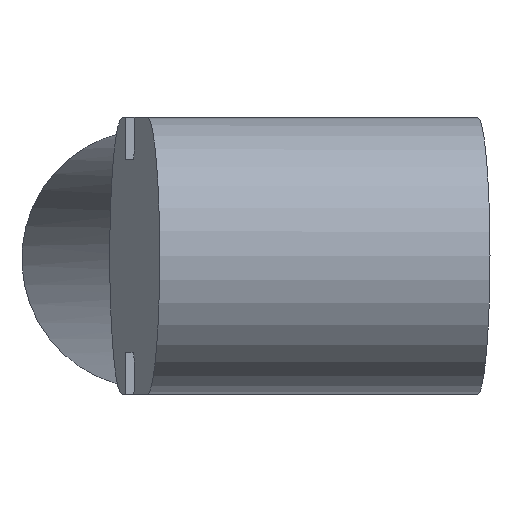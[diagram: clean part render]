
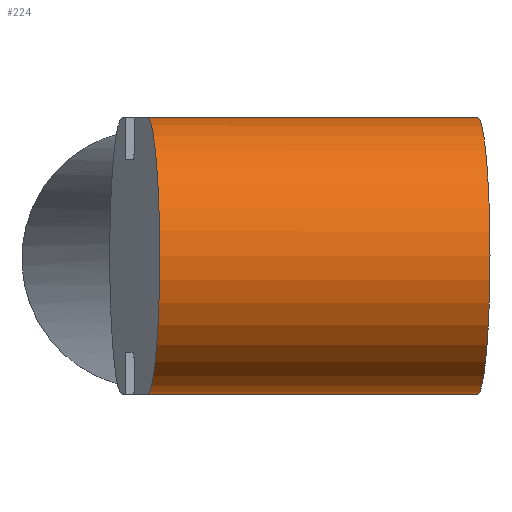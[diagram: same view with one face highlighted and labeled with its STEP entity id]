
A CAD part, top view. The second image highlights one B-rep face of the part: STEP entity #224.
In plain terms, the highlighted free-form (B-spline) face has degree [5, 3] with [6, 8] control points.
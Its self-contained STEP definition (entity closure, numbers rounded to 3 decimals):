
#128=FACE_OUTER_BOUND('',#251,.T.);
#133=(
BOUNDED_SURFACE()
B_SPLINE_SURFACE(5,3,((#843,#844,#845,#846,#847,#848,#849,#850),(#851,#852,
#853,#854,#855,#856,#857,#858),(#859,#860,#861,#862,#863,#864,#865,#866),
(#867,#868,#869,#870,#871,#872,#873,#874),(#875,#876,#877,#878,#879,#880,
#881,#882),(#883,#884,#885,#886,#887,#888,#889,#890)),.UNSPECIFIED.,.F.,
 .F.,.F.)
B_SPLINE_SURFACE_WITH_KNOTS((6,6),(4,2,2,4),(0.,1.),(0.,0.083,
0.917,1.),.UNSPECIFIED.)
GEOMETRIC_REPRESENTATION_ITEM()
RATIONAL_B_SPLINE_SURFACE(((1.,1.,1.,1.,1.,1.,1.,1.),(0.6,0.6,0.6,0.6,0.6,
0.6,0.6,0.6),(0.4,0.4,0.4,0.4,0.4,0.4,0.4,0.4),(0.4,0.4,0.4,0.4,0.4,0.4,
0.4,0.4),(0.6,0.6,0.6,0.6,0.6,0.6,0.6,0.6),(1.,1.,1.,1.,1.,1.,1.,1.)))
REPRESENTATION_ITEM('')
SURFACE()
);
#137=CIRCLE('',#424,190.253);
#141=CIRCLE('',#429,190.253);
#174=LINE('',#841,#208);
#175=LINE('',#842,#209);
#208=VECTOR('',#519,1.);
#209=VECTOR('',#520,1.);
#224=ADVANCED_FACE('',(#128),#133,.T.);
#251=EDGE_LOOP('',(#330,#331,#332,#333));
#330=ORIENTED_EDGE('',*,*,#415,.F.);
#331=ORIENTED_EDGE('',*,*,#402,.T.);
#332=ORIENTED_EDGE('',*,*,#416,.F.);
#333=ORIENTED_EDGE('',*,*,#382,.T.);
#352=VERTEX_POINT('',#775);
#353=VERTEX_POINT('',#777);
#370=VERTEX_POINT('',#814);
#371=VERTEX_POINT('',#816);
#382=EDGE_CURVE('',#353,#352,#137,.T.);
#402=EDGE_CURVE('',#371,#370,#141,.T.);
#415=EDGE_CURVE('',#371,#352,#174,.T.);
#416=EDGE_CURVE('',#353,#370,#175,.T.);
#424=AXIS2_PLACEMENT_3D('',#776,#457,#458);
#429=AXIS2_PLACEMENT_3D('',#815,#483,#484);
#457=DIRECTION('',(0.996,0.,-0.09));
#458=DIRECTION('',(0.,1.,-0.001));
#483=DIRECTION('',(-0.996,0.,0.09));
#484=DIRECTION('',(0.,-1.,0.001));
#519=DIRECTION('',(-0.996,0.,0.09));
#520=DIRECTION('',(0.996,0.,-0.09));
#775=CARTESIAN_POINT('',(11888.306,-192.053,-564.585));
#776=CARTESIAN_POINT('',(11888.311,-1.8,-564.558));
#777=CARTESIAN_POINT('',(11888.315,188.453,-564.532));
#814=CARTESIAN_POINT('',(12341.9,188.448,-605.658));
#815=CARTESIAN_POINT('',(12341.896,-1.804,-605.685));
#816=CARTESIAN_POINT('',(12341.891,-192.057,-605.712));
#841=CARTESIAN_POINT('',(12115.099,-192.055,-585.148));
#842=CARTESIAN_POINT('',(12115.107,188.45,-585.095));
#843=CARTESIAN_POINT('',(11842.956,188.453,-560.419));
#844=CARTESIAN_POINT('',(11858.076,188.453,-561.79));
#845=CARTESIAN_POINT('',(11873.195,188.453,-563.161));
#846=CARTESIAN_POINT('',(12039.51,188.451,-578.24));
#847=CARTESIAN_POINT('',(12190.705,188.45,-591.949));
#848=CARTESIAN_POINT('',(12357.019,188.448,-607.029));
#849=CARTESIAN_POINT('',(12372.139,188.448,-608.4));
#850=CARTESIAN_POINT('',(12387.258,188.448,-609.771));
#851=CARTESIAN_POINT('',(11854.41,188.435,-434.102));
#852=CARTESIAN_POINT('',(11869.529,188.435,-435.473));
#853=CARTESIAN_POINT('',(11884.649,188.435,-436.844));
#854=CARTESIAN_POINT('',(12050.963,188.433,-451.924));
#855=CARTESIAN_POINT('',(12202.158,188.432,-465.632));
#856=CARTESIAN_POINT('',(12368.473,188.43,-480.712));
#857=CARTESIAN_POINT('',(12383.592,188.43,-482.083));
#858=CARTESIAN_POINT('',(12398.712,188.43,-483.454));
#859=CARTESIAN_POINT('',(11868.724,93.286,-276.219));
#860=CARTESIAN_POINT('',(11883.843,93.286,-277.59));
#861=CARTESIAN_POINT('',(11898.963,93.286,-278.961));
#862=CARTESIAN_POINT('',(12065.277,93.284,-294.041));
#863=CARTESIAN_POINT('',(12216.472,93.283,-307.75));
#864=CARTESIAN_POINT('',(12382.787,93.281,-322.829));
#865=CARTESIAN_POINT('',(12397.906,93.281,-324.2));
#866=CARTESIAN_POINT('',(12413.026,93.281,-325.571));
#867=CARTESIAN_POINT('',(11868.72,-96.966,-276.246));
#868=CARTESIAN_POINT('',(11883.839,-96.966,-277.617));
#869=CARTESIAN_POINT('',(11898.959,-96.967,-278.988));
#870=CARTESIAN_POINT('',(12065.273,-96.968,-294.067));
#871=CARTESIAN_POINT('',(12216.468,-96.97,-307.776));
#872=CARTESIAN_POINT('',(12382.783,-96.971,-322.856));
#873=CARTESIAN_POINT('',(12397.902,-96.972,-324.227));
#874=CARTESIAN_POINT('',(12413.022,-96.972,-325.598));
#875=CARTESIAN_POINT('',(11854.401,-192.07,-434.155));
#876=CARTESIAN_POINT('',(11869.521,-192.07,-435.526));
#877=CARTESIAN_POINT('',(11884.64,-192.07,-436.897));
#878=CARTESIAN_POINT('',(12050.955,-192.072,-451.977));
#879=CARTESIAN_POINT('',(12202.15,-192.074,-465.686));
#880=CARTESIAN_POINT('',(12368.464,-192.075,-480.766));
#881=CARTESIAN_POINT('',(12383.584,-192.075,-482.137));
#882=CARTESIAN_POINT('',(12398.703,-192.075,-483.507));
#883=CARTESIAN_POINT('',(11842.948,-192.052,-560.472));
#884=CARTESIAN_POINT('',(11858.067,-192.052,-561.843));
#885=CARTESIAN_POINT('',(11873.187,-192.052,-563.214));
#886=CARTESIAN_POINT('',(12039.501,-192.054,-578.294));
#887=CARTESIAN_POINT('',(12190.696,-192.056,-592.003));
#888=CARTESIAN_POINT('',(12357.011,-192.057,-607.083));
#889=CARTESIAN_POINT('',(12372.13,-192.057,-608.453));
#890=CARTESIAN_POINT('',(12387.25,-192.057,-609.824));
